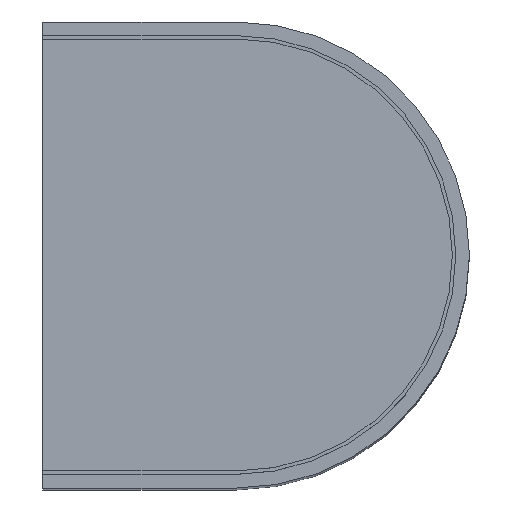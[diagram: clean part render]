
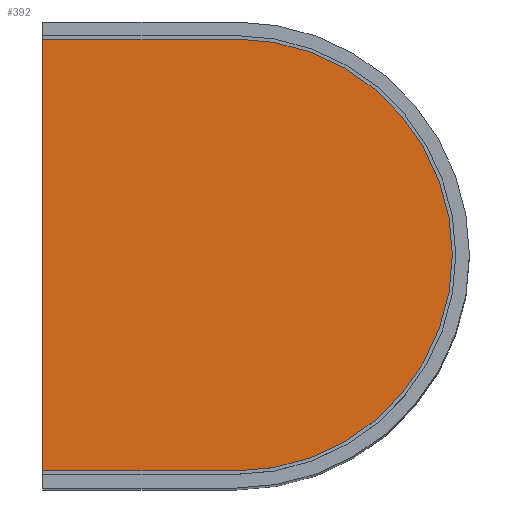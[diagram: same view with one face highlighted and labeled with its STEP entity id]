
A CAD part, top view. The second image highlights one B-rep face of the part: STEP entity #392.
In plain terms, the highlighted planar face has unit normal (0, 0, 1).
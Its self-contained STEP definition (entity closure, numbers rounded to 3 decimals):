
#4 = VECTOR ( 'NONE', #235, 1000. ) ;
#24 = DIRECTION ( 'NONE',  ( 0., 0., 1. ) ) ;
#34 = DIRECTION ( 'NONE',  ( 1., 0., 0. ) ) ;
#51 = VERTEX_POINT ( 'NONE', #665 ) ;
#61 = PLANE ( 'NONE',  #376 ) ;
#91 = ORIENTED_EDGE ( 'NONE', *, *, #345, .T. ) ;
#93 = EDGE_CURVE ( 'NONE', #738, #188, #507, .T. ) ;
#109 = CARTESIAN_POINT ( 'NONE',  ( -68.25, 63.25, 173. ) ) ;
#117 = DIRECTION ( 'NONE',  ( 1., 0., 0. ) ) ;
#118 = ORIENTED_EDGE ( 'NONE', *, *, #556, .T. ) ;
#145 = VECTOR ( 'NONE', #293, 1000. ) ;
#182 = CARTESIAN_POINT ( 'NONE',  ( -125., -63.25, 173. ) ) ;
#188 = VERTEX_POINT ( 'NONE', #341 ) ;
#235 = DIRECTION ( 'NONE',  ( 0., -1., 0. ) ) ;
#238 = LINE ( 'NONE', #182, #637 ) ;
#240 = CARTESIAN_POINT ( 'NONE',  ( -68.25, 0., 173. ) ) ;
#257 = FACE_OUTER_BOUND ( 'NONE', #325, .T. ) ;
#264 = AXIS2_PLACEMENT_3D ( 'NONE', #714, #24, #34 ) ;
#284 = EDGE_CURVE ( 'NONE', #495, #51, #238, .T. ) ;
#293 = DIRECTION ( 'NONE',  ( -1., 0., 0. ) ) ;
#307 = LINE ( 'NONE', #468, #4 ) ;
#325 = EDGE_LOOP ( 'NONE', ( #520, #91, #367, #118 ) ) ;
#330 = CIRCLE ( 'NONE', #264, 63.25 ) ;
#341 = CARTESIAN_POINT ( 'NONE',  ( -125., 63.25, 173. ) ) ;
#345 = EDGE_CURVE ( 'NONE', #188, #495, #307, .T. ) ;
#352 = DIRECTION ( 'NONE',  ( 0., 0., 1. ) ) ;
#364 = CARTESIAN_POINT ( 'NONE',  ( -125., -63.25, 173. ) ) ;
#367 = ORIENTED_EDGE ( 'NONE', *, *, #284, .T. ) ;
#376 = AXIS2_PLACEMENT_3D ( 'NONE', #240, #352, #117 ) ;
#392 = ADVANCED_FACE ( 'NONE', ( #257 ), #61, .T. ) ;
#468 = CARTESIAN_POINT ( 'NONE',  ( -125., 63.25, 173. ) ) ;
#495 = VERTEX_POINT ( 'NONE', #364 ) ;
#507 = LINE ( 'NONE', #109, #145 ) ;
#520 = ORIENTED_EDGE ( 'NONE', *, *, #93, .T. ) ;
#555 = CARTESIAN_POINT ( 'NONE',  ( -68.25, 63.25, 173. ) ) ;
#556 = EDGE_CURVE ( 'NONE', #51, #738, #330, .T. ) ;
#637 = VECTOR ( 'NONE', #693, 1000. ) ;
#665 = CARTESIAN_POINT ( 'NONE',  ( -68.25, -63.25, 173. ) ) ;
#693 = DIRECTION ( 'NONE',  ( 1., 0., 0. ) ) ;
#714 = CARTESIAN_POINT ( 'NONE',  ( -68.25, 0., 173. ) ) ;
#738 = VERTEX_POINT ( 'NONE', #555 ) ;
